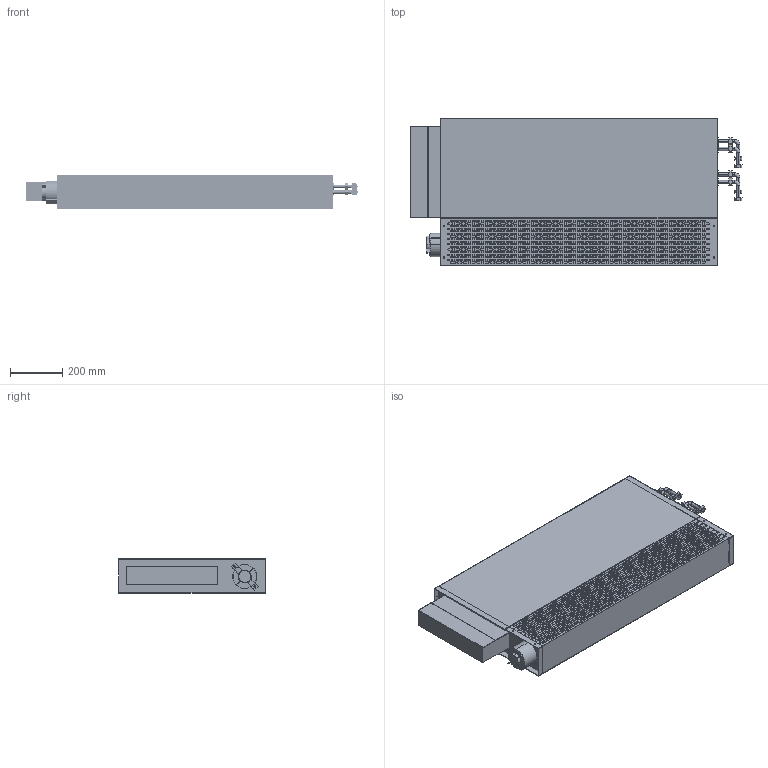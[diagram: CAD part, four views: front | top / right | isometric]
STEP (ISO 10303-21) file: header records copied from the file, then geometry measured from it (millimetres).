
FILE_DESCRIPTION (( 'STEP AP214' ), '1' );
FILE_NAME ('PFWSLA-04-4pipe_v2.STEP', '2024-10-22T13:53:47', ( '' ), ( '' ), 'SwSTEP 2.0', 'SolidWorks 2023', '' );
FILE_SCHEMA (( 'AUTOMOTIVE_DESIGN' ));
Length unit declared in the file: inch
Products named in the file (1): PFWSLA-04-4pipe_v2
Bounding box: 1270.08 x 561.98 x 130.18 mm (x, y, z)
Volume: 20775439.6 mm3; surface area: 4843241.1 mm2
Topology: 32 solids, 32 shells, 5474 faces, 15192 edges, 10112 vertices
Faces by surface type: plane 3284, cylinder 2182, torus 8
Entity records: 178760 total; most frequent: CARTESIAN_POINT 30779, DIRECTION 30534, ORIENTED_EDGE 30384, EDGE_CURVE 15192, LINE 10800, VECTOR 10800, VERTEX_POINT 10112, AXIS2_PLACEMENT_3D 9867
